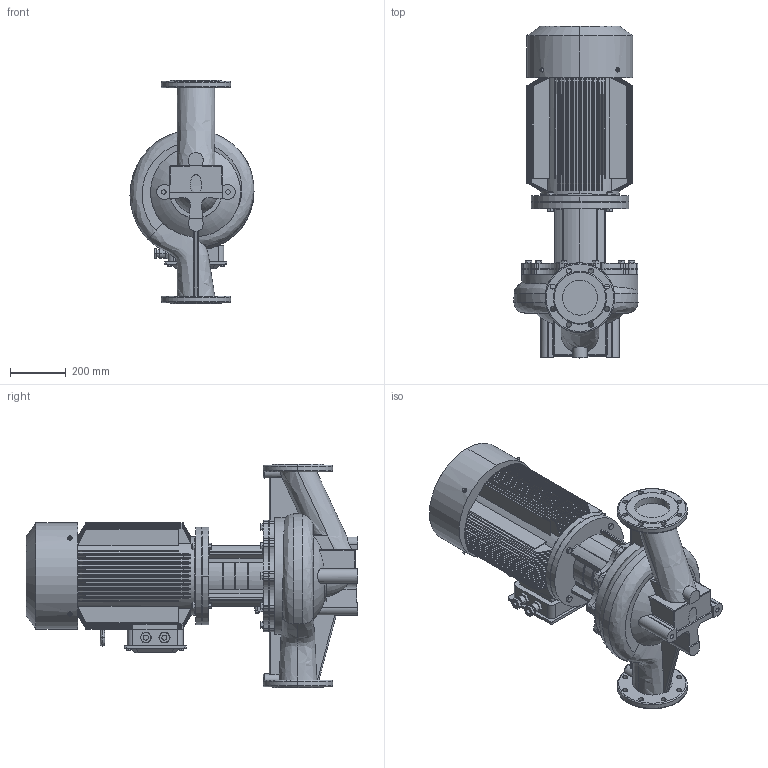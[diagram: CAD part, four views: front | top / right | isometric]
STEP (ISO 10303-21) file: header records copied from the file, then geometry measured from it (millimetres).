
FILE_DESCRIPTION (( 'STEP AP203' ), '1' );
FILE_NAME ('TD125-28G／4.STEP', '2026-09-07T02:50:39', ( '' ), ( '' ), 'SwSTEP 2.0', 'SolidWorks 2020', '' );
FILE_SCHEMA (( 'CONFIG_CONTROL_DESIGN' ));
Products named in the file (1): TD125-28Gㄞ4
Bounding box: 444.29 x 1189 x 800 mm (x, y, z)
Volume: 106600899.5 mm3; surface area: 5279290.6 mm2
Topology: 1 solids, 9 shells, 1601 faces, 4150 edges, 2628 vertices
Faces by surface type: plane 681, cylinder 440, cone 391, torus 46, bspline 41, sphere 2
Entity records: 71423 total; most frequent: CARTESIAN_POINT 33213, ORIENTED_EDGE 8292, DIRECTION 7648, EDGE_CURVE 4146, AXIS2_PLACEMENT_3D 3022, VERTEX_POINT 2628, EDGE_LOOP 1730, LINE 1604
